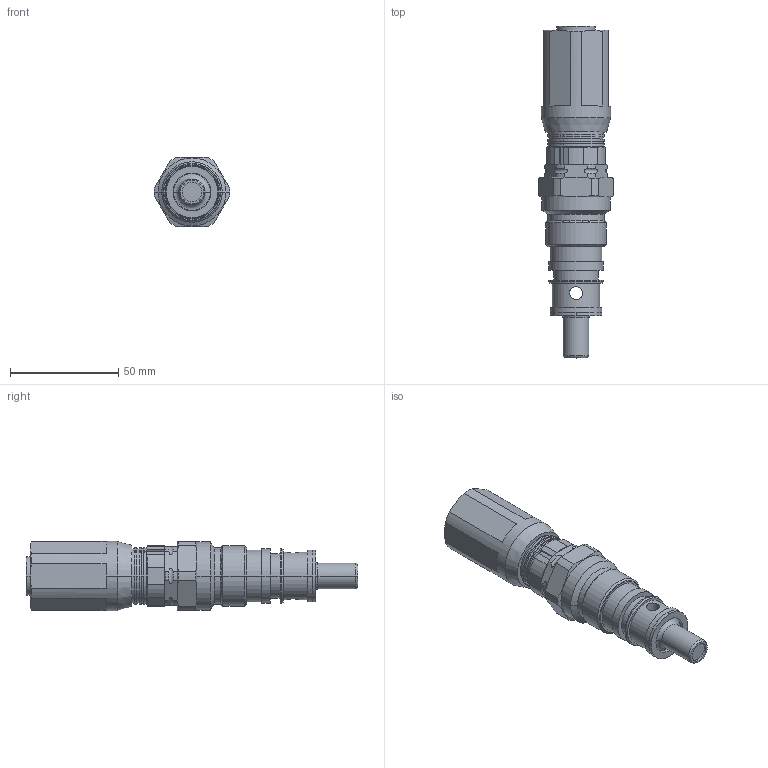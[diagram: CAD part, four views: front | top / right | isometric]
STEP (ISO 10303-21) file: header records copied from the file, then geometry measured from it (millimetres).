
FILE_DESCRIPTION((''),'2;1');
FILE_NAME('VPP2_06_O','2011-03-15T',('paro'),(''),'PRO/ENGINEER BY PARAMETRIC TECHNOLOGY CORPORATION, 2010180','PRO/ENGINEER BY PARAMETRIC TECHNOLOGY CORPORATION, 2010180','');
FILE_SCHEMA(('CONFIG_CONTROL_DESIGN'));
Length unit declared in the file: millimetre
Products named in the file (1): VPP2_06_O
Bounding box: 35 x 153.5 x 32 mm (x, y, z)
Volume: 85675.8 mm3; surface area: 17302.1 mm2
Topology: 1 solids, 3 shells, 186 faces, 522 edges, 346 vertices
Faces by surface type: plane 72, cylinder 71, cone 33, torus 10
Entity records: 6436 total; most frequent: CARTESIAN_POINT 1588, DIRECTION 1038, ORIENTED_EDGE 1006, EDGE_CURVE 507, AXIS2_PLACEMENT_3D 416, VERTEX_POINT 336, CIRCLE 228, VECTOR 206
